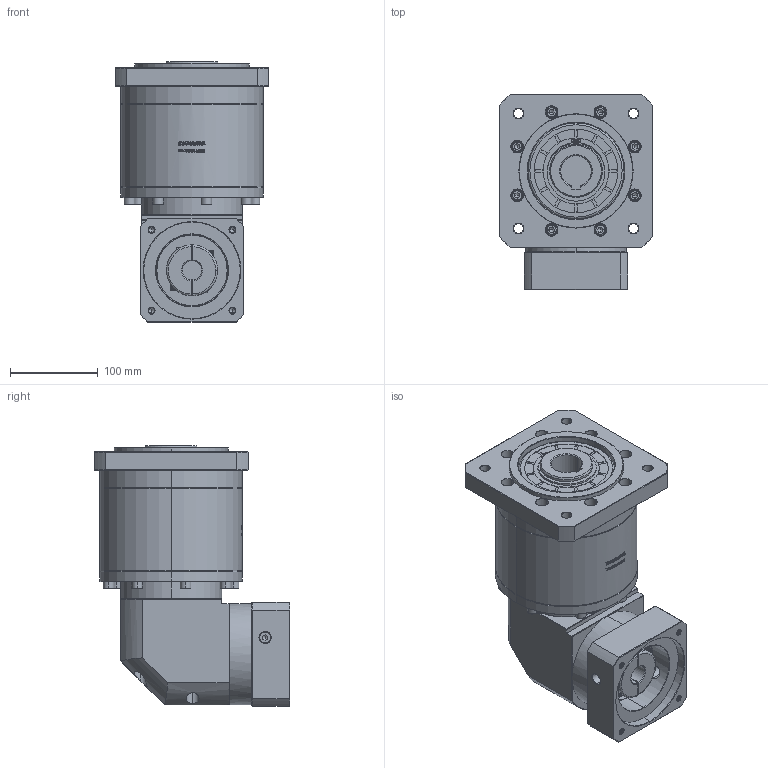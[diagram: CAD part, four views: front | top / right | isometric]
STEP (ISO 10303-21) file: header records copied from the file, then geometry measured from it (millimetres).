
FILE_DESCRIPTION (( 'STEP AP214' ), '1' );
FILE_NAME ('ZFR160A-K35-L3-22-110-130-M8.step', '2023-03-25T02:00:25', ( '' ), ( '' ), 'SwSTEP 2.0', 'SolidWorks 2016', '' );
FILE_SCHEMA (( 'AUTOMOTIVE_DESIGN' ));
Length unit declared in the file: millimetre
Products named in the file (1): ZFR160A-K35-L3-22-110-130-M8
Bounding box: 175 x 222.4 x 296.2 mm (x, y, z)
Volume: 5461991.3 mm3; surface area: 354185.4 mm2
Topology: 6 solids, 6 shells, 2725 faces, 7100 edges, 4547 vertices
Faces by surface type: plane 1366, bspline 491, cylinder 459, cone 365, torus 44
Entity records: 143497 total; most frequent: CARTESIAN_POINT 50835, ORIENTED_EDGE 14096, DIRECTION 11164, EDGE_CURVE 7048, VERTEX_POINT 4547, VECTOR 4444, LINE 4444, AXIS2_PLACEMENT_3D 3360
